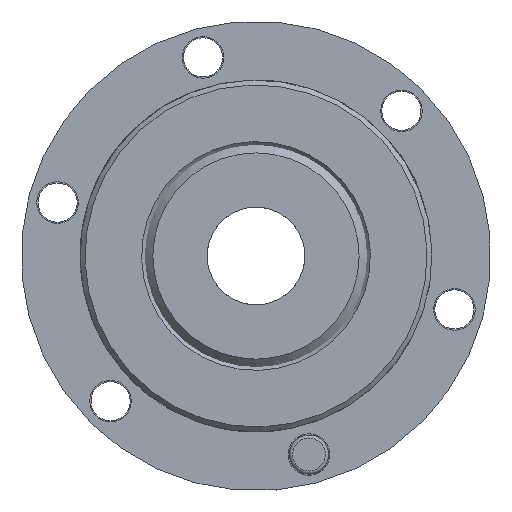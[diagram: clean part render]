
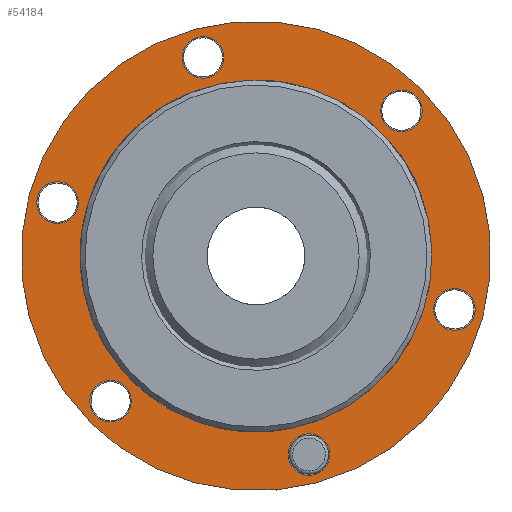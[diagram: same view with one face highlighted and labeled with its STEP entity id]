
A CAD part, front view. The second image highlights one B-rep face of the part: STEP entity #54184.
In plain terms, the highlighted planar face has unit normal (0, -1, 0).
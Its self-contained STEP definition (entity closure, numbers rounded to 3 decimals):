
#169 = AXIS2_PLACEMENT_3D ( 'NONE', #15567, #57725, #58922 ) ;
#286 = EDGE_LOOP ( 'NONE', ( #5974 ) ) ;
#793 = CARTESIAN_POINT ( 'NONE',  ( 31.317, 7.925, -11.915 ) ) ;
#901 = EDGE_LOOP ( 'NONE', ( #3305 ) ) ;
#3305 = ORIENTED_EDGE ( 'NONE', *, *, #40811, .F. ) ;
#4074 = FACE_BOUND ( 'NONE', #7120, .T. ) ;
#4281 = DIRECTION ( 'NONE',  ( -0.706, 0., 0.708 ) ) ;
#4988 = FACE_BOUND ( 'NONE', #7668, .T. ) ;
#5595 = EDGE_LOOP ( 'NONE', ( #23742 ) ) ;
#5974 = ORIENTED_EDGE ( 'NONE', *, *, #61036, .T. ) ;
#6425 = VERTEX_POINT ( 'NONE', #52621 ) ;
#7120 = EDGE_LOOP ( 'NONE', ( #15005 ) ) ;
#7668 = EDGE_LOOP ( 'NONE', ( #10676 ) ) ;
#8631 = CARTESIAN_POINT ( 'NONE',  ( -25.977, 7.925, -21.164 ) ) ;
#9645 = FACE_BOUND ( 'NONE', #15241, .T. ) ;
#10635 = CIRCLE ( 'NONE', #47222, 19.05 ) ;
#10676 = ORIENTED_EDGE ( 'NONE', *, *, #58099, .T. ) ;
#10839 = VERTEX_POINT ( 'NONE', #15807 ) ;
#11503 = DIRECTION ( 'NONE',  ( 0., 1., 0. ) ) ;
#12231 = AXIS2_PLACEMENT_3D ( 'NONE', #30399, #11503, #21415 ) ;
#14232 = CARTESIAN_POINT ( 'NONE',  ( 5.34, 7.925, -33.079 ) ) ;
#14938 = CARTESIAN_POINT ( 'NONE',  ( 32.192, 7.925, -8.665 ) ) ;
#15005 = ORIENTED_EDGE ( 'NONE', *, *, #16535, .T. ) ;
#15128 = DIRECTION ( 'NONE',  ( -0.706, 0., 0.708 ) ) ;
#15220 = EDGE_CURVE ( 'NONE', #28679, #28679, #56209, .T. ) ;
#15241 = EDGE_LOOP ( 'NONE', ( #17011 ) ) ;
#15356 = CARTESIAN_POINT ( 'NONE',  ( -5.34, 7.925, 33.079 ) ) ;
#15567 = CARTESIAN_POINT ( 'NONE',  ( -8.592, 7.925, 32.211 ) ) ;
#15807 = CARTESIAN_POINT ( 'NONE',  ( -13.455, 7.925, 13.486 ) ) ;
#16535 = EDGE_CURVE ( 'NONE', #33336, #33336, #36739, .T. ) ;
#17011 = ORIENTED_EDGE ( 'NONE', *, *, #57444, .T. ) ;
#19160 = CIRCLE ( 'NONE', #46828, 3.366 ) ;
#20253 = AXIS2_PLACEMENT_3D ( 'NONE', #53214, #43609, #15128 ) ;
#20997 = AXIS2_PLACEMENT_3D ( 'NONE', #41875, #28539, #60793 ) ;
#21415 = DIRECTION ( 'NONE',  ( 0.26, 0., 0.966 ) ) ;
#21432 = EDGE_CURVE ( 'NONE', #58407, #58407, #29070, .T. ) ;
#22972 = PLANE ( 'NONE',  #20997 ) ;
#23742 = ORIENTED_EDGE ( 'NONE', *, *, #21432, .T. ) ;
#26569 = DIRECTION ( 'NONE',  ( -0.706, 0., 0.708 ) ) ;
#26872 = DIRECTION ( 'NONE',  ( 0., -1., 0. ) ) ;
#27825 = DIRECTION ( 'NONE',  ( 0., 1., 0. ) ) ;
#27914 = FACE_OUTER_BOUND ( 'NONE', #286, .T. ) ;
#28539 = DIRECTION ( 'NONE',  ( 0., -1., 0. ) ) ;
#28679 = VERTEX_POINT ( 'NONE', #793 ) ;
#29070 = CIRCLE ( 'NONE', #40963, 3.366 ) ;
#30399 = CARTESIAN_POINT ( 'NONE',  ( -32.192, 7.925, 8.665 ) ) ;
#31929 = CARTESIAN_POINT ( 'NONE',  ( 8.592, 7.925, -32.211 ) ) ;
#32767 = CARTESIAN_POINT ( 'NONE',  ( 0., 7.925, 0. ) ) ;
#33045 = CIRCLE ( 'NONE', #12231, 3.366 ) ;
#33336 = VERTEX_POINT ( 'NONE', #15356 ) ;
#33727 = VERTEX_POINT ( 'NONE', #8631 ) ;
#34140 = CIRCLE ( 'NONE', #20253, 38.1 ) ;
#35556 = ORIENTED_EDGE ( 'NONE', *, *, #15220, .T. ) ;
#36612 = FACE_BOUND ( 'NONE', #901, .T. ) ;
#36739 = CIRCLE ( 'NONE', #169, 3.366 ) ;
#37837 = FACE_BOUND ( 'NONE', #51780, .T. ) ;
#39201 = EDGE_LOOP ( 'NONE', ( #43821 ) ) ;
#40811 = EDGE_CURVE ( 'NONE', #10839, #10839, #10635, .T. ) ;
#40963 = AXIS2_PLACEMENT_3D ( 'NONE', #42393, #27825, #47041 ) ;
#41875 = CARTESIAN_POINT ( 'NONE',  ( -20.183, 7.925, 20.229 ) ) ;
#42393 = CARTESIAN_POINT ( 'NONE',  ( 23.6, 7.925, 23.546 ) ) ;
#42486 = FACE_BOUND ( 'NONE', #5595, .T. ) ;
#42942 = CIRCLE ( 'NONE', #44910, 3.365 ) ;
#43609 = DIRECTION ( 'NONE',  ( 0., -1., 0. ) ) ;
#43617 = CARTESIAN_POINT ( 'NONE',  ( -31.317, 7.925, 11.915 ) ) ;
#43821 = ORIENTED_EDGE ( 'NONE', *, *, #58798, .T. ) ;
#44910 = AXIS2_PLACEMENT_3D ( 'NONE', #55416, #46722, #4281 ) ;
#45286 = AXIS2_PLACEMENT_3D ( 'NONE', #14938, #48969, #57695 ) ;
#45859 = DIRECTION ( 'NONE',  ( -0.966, 0., -0.258 ) ) ;
#46509 = FACE_BOUND ( 'NONE', #39201, .T. ) ;
#46722 = DIRECTION ( 'NONE',  ( 0., 1., 0. ) ) ;
#46828 = AXIS2_PLACEMENT_3D ( 'NONE', #31929, #50525, #45859 ) ;
#47041 = DIRECTION ( 'NONE',  ( 0.706, 0., -0.708 ) ) ;
#47222 = AXIS2_PLACEMENT_3D ( 'NONE', #32767, #26872, #26569 ) ;
#48969 = DIRECTION ( 'NONE',  ( 0., 1., 0. ) ) ;
#50525 = DIRECTION ( 'NONE',  ( 0., 1., 0. ) ) ;
#51780 = EDGE_LOOP ( 'NONE', ( #35556 ) ) ;
#52621 = CARTESIAN_POINT ( 'NONE',  ( -26.91, 7.925, 26.971 ) ) ;
#53214 = CARTESIAN_POINT ( 'NONE',  ( 0., 7.925, 0. ) ) ;
#53523 = VERTEX_POINT ( 'NONE', #43617 ) ;
#54184 = ADVANCED_FACE ( 'NONE', ( #36612, #42486, #37837, #9645, #4988, #46509, #4074, #27914 ), #22972, .T. ) ;
#55416 = CARTESIAN_POINT ( 'NONE',  ( -23.6, 7.925, -23.546 ) ) ;
#56209 = CIRCLE ( 'NONE', #45286, 3.366 ) ;
#56672 = VERTEX_POINT ( 'NONE', #14232 ) ;
#57444 = EDGE_CURVE ( 'NONE', #56672, #56672, #19160, .T. ) ;
#57695 = DIRECTION ( 'NONE',  ( -0.26, 0., -0.966 ) ) ;
#57725 = DIRECTION ( 'NONE',  ( 0., 1., 0. ) ) ;
#58099 = EDGE_CURVE ( 'NONE', #33727, #33727, #42942, .T. ) ;
#58108 = CARTESIAN_POINT ( 'NONE',  ( 25.977, 7.925, 21.164 ) ) ;
#58407 = VERTEX_POINT ( 'NONE', #58108 ) ;
#58798 = EDGE_CURVE ( 'NONE', #53523, #53523, #33045, .T. ) ;
#58922 = DIRECTION ( 'NONE',  ( 0.966, 0., 0.258 ) ) ;
#60793 = DIRECTION ( 'NONE',  ( 0.708, 0., 0.706 ) ) ;
#61036 = EDGE_CURVE ( 'NONE', #6425, #6425, #34140, .T. ) ;
